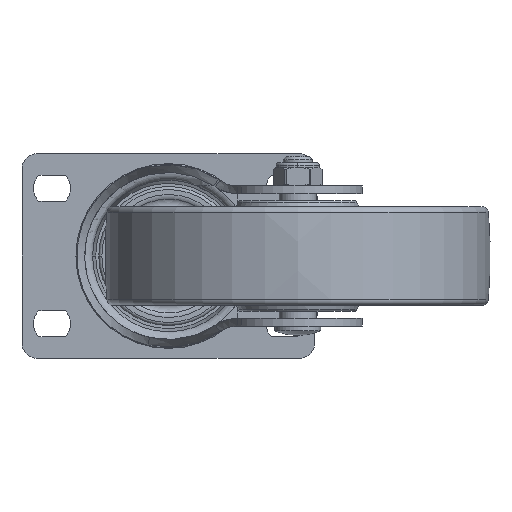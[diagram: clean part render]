
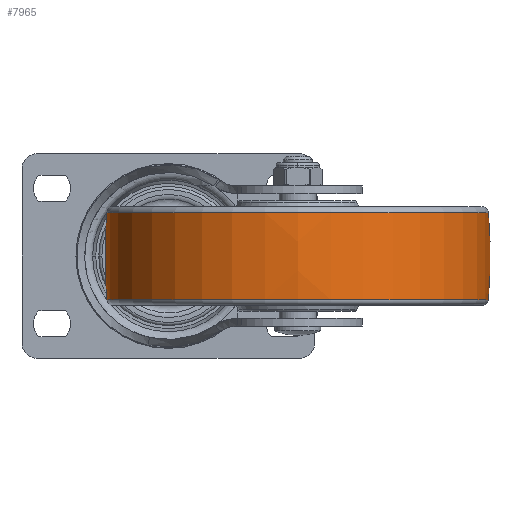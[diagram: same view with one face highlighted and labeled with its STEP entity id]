
A CAD part, front view. The second image highlights one B-rep face of the part: STEP entity #7965.
In plain terms, the highlighted free-form (B-spline) face has degree [3, 3] with [7, 4] control points.
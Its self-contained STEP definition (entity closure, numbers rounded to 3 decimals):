
#7377=CARTESIAN_POINT('',(-0.009,-107.5,
0.));
#7378=DIRECTION('',(0.,0.,1.));
#7379=DIRECTION('',(0.083,0.997,0.));
#7380=AXIS2_PLACEMENT_3D('',#7377,#7378,#7379);
#7382=CARTESIAN_POINT('',(-0.009,107.5,
0.));
#7383=DIRECTION('',(0.,0.,-1.));
#7384=DIRECTION('',(0.083,-0.997,0.));
#7385=AXIS2_PLACEMENT_3D('',#7382,#7383,#7384);
#7387=CARTESIAN_POINT('',(14.09,0.,0.));
#7388=DIRECTION('',(-1.,0.,0.));
#7389=DIRECTION('',(0.,1.,0.));
#7390=AXIS2_PLACEMENT_3D('',#7387,#7388,#7389);
#7412=CARTESIAN_POINT('',(-14.167,0.,0.));
#7413=DIRECTION('',(-1.,0.,0.));
#7414=DIRECTION('',(0.,1.,0.));
#7415=AXIS2_PLACEMENT_3D('',#7412,#7413,#7414);
#7556=CARTESIAN_POINT('',(14.09,61.915,0.));
#7558=VERTEX_POINT('',#7556);
#7559=CARTESIAN_POINT('',(-14.167,61.91,0.));
#7560=VERTEX_POINT('',#7559);
#7596=CARTESIAN_POINT('',(14.09,-61.915,
0.));
#7598=VERTEX_POINT('',#7596);
#7599=CARTESIAN_POINT('',(-14.167,-61.91,
0.));
#7600=VERTEX_POINT('',#7599);
#7927=CARTESIAN_POINT('',(-14.73,-61.74,
3.884));
#7928=CARTESIAN_POINT('',(-4.948,-62.588,
3.938));
#7929=CARTESIAN_POINT('',(4.871,-62.59,3.938));
#7930=CARTESIAN_POINT('',(14.654,-61.745,3.885));
#7931=CARTESIAN_POINT('',(-14.73,-64.13,
-34.11));
#7932=CARTESIAN_POINT('',(-4.948,-65.012,
-34.579));
#7933=CARTESIAN_POINT('',(4.871,-65.013,
-34.58));
#7934=CARTESIAN_POINT('',(14.654,-64.135,
-34.113));
#7935=CARTESIAN_POINT('',(-14.73,-38.07,
-61.862));
#7936=CARTESIAN_POINT('',(-4.948,-38.593,
-62.712));
#7937=CARTESIAN_POINT('',(4.871,-38.594,
-62.714));
#7938=CARTESIAN_POINT('',(14.654,-38.073,
-61.867));
#7939=CARTESIAN_POINT('',(-14.73,0.,
-61.862));
#7940=CARTESIAN_POINT('',(-4.948,0.,
-62.712));
#7941=CARTESIAN_POINT('',(4.871,0.,
-62.714));
#7942=CARTESIAN_POINT('',(14.654,0.,
-61.867));
#7943=CARTESIAN_POINT('',(-14.73,38.07,
-61.862));
#7944=CARTESIAN_POINT('',(-4.948,38.593,
-62.712));
#7945=CARTESIAN_POINT('',(4.871,38.594,-62.714));
#7946=CARTESIAN_POINT('',(14.654,38.073,-61.867));
#7947=CARTESIAN_POINT('',(-14.73,64.13,
-34.11));
#7948=CARTESIAN_POINT('',(-4.948,65.012,
-34.579));
#7949=CARTESIAN_POINT('',(4.871,65.013,-34.58));
#7950=CARTESIAN_POINT('',(14.654,64.135,-34.113));
#7951=CARTESIAN_POINT('',(-14.73,61.74,3.884));
#7952=CARTESIAN_POINT('',(-4.948,62.588,3.938));
#7953=CARTESIAN_POINT('',(4.871,62.59,3.938));
#7954=CARTESIAN_POINT('',(14.654,61.745,3.885));
#7955=(BOUNDED_SURFACE()B_SPLINE_SURFACE(3,3,((#7927,#7928,#7929,#7930),(#7931,
#7932,#7933,#7934),(#7935,#7936,#7937,#7938),(#7939,#7940,#7941,#7942),(#7943,
#7944,#7945,#7946),(#7947,#7948,#7949,#7950),(#7951,#7952,#7953,#7954)),
.UNSPECIFIED.,.F.,.F.,.F.)B_SPLINE_SURFACE_WITH_KNOTS((4,3,4),(4,4),(0.,1.,
2.),(0.,1.),.UNSPECIFIED.)GEOMETRIC_REPRESENTATION_ITEM()RATIONAL_B_SPLINE_SURFACE(((1.189,1.187,1.187,1.189),(
0.939,0.937,0.937,0.939),(
0.939,0.937,0.937,0.939),(
1.189,1.187,1.187,1.189),(
0.939,0.937,0.937,0.939),(
0.939,0.937,0.937,0.939),(
1.189,1.187,1.187,1.189)))REPRESENTATION_ITEM('')SURFACE());
#7957=ORIENTED_EDGE('',*,*,#7956,.T.);
#7959=ORIENTED_EDGE('',*,*,#7958,.T.);
#7961=ORIENTED_EDGE('',*,*,#7960,.F.);
#7962=ORIENTED_EDGE('',*,*,#7920,.F.);
#7963=EDGE_LOOP('',(#7957,#7959,#7961,#7962));
#7964=FACE_OUTER_BOUND('',#7963,.F.);
#7381=CIRCLE('',#7380,170.);
#7386=CIRCLE('',#7385,170.);
#7391=CIRCLE('',#7390,61.915);
#7416=CIRCLE('',#7415,61.91);
#7920=EDGE_CURVE('',#7558,#7598,#7391,.T.);
#7956=EDGE_CURVE('',#7558,#7560,#7381,.T.);
#7958=EDGE_CURVE('',#7560,#7600,#7416,.T.);
#7960=EDGE_CURVE('',#7598,#7600,#7386,.T.);
#7965=ADVANCED_FACE('',(#7964),#7955,.T.);
